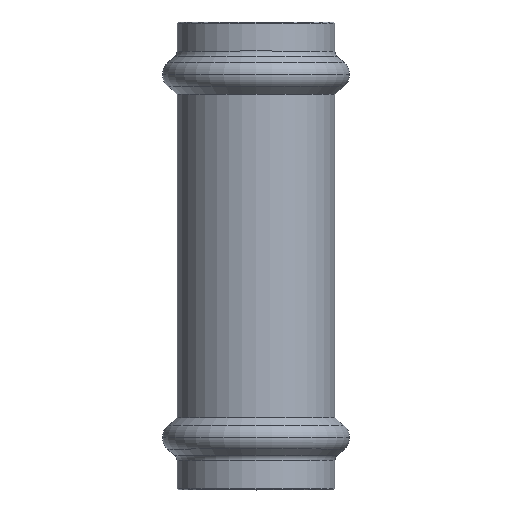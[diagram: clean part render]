
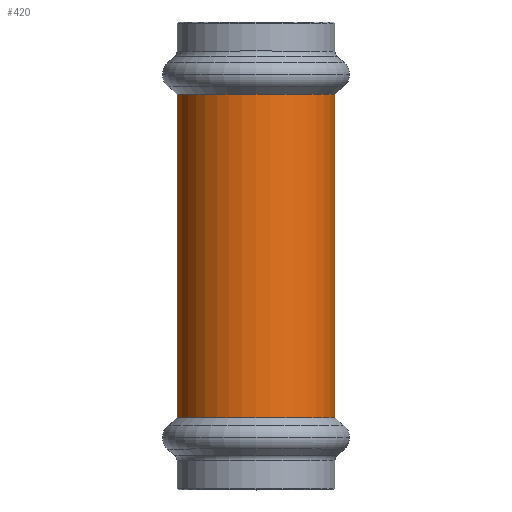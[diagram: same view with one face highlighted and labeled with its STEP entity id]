
A CAD part, top view. The second image highlights one B-rep face of the part: STEP entity #420.
In plain terms, the highlighted cylindrical face has radius 15.65 mm (diameter 31.3 mm), a partial arc.
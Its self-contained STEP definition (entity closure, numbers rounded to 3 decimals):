
#10=CARTESIAN_POINT('',(31.006,16.142,0.));
#20=DIRECTION('',(0.,1.,0.));
#30=DIRECTION('',(1.,0.,0.));
#40=AXIS2_PLACEMENT_3D('',#10,#20,#30);
#50=CYLINDRICAL_SURFACE('',#40,15.65);
#60=CARTESIAN_POINT('',(15.356,16.142,0.
));
#70=DIRECTION('',(0.,1.,0.));
#80=VECTOR('',#70,1.);
#90=LINE('',#60,#80);
#100=CARTESIAN_POINT('',(15.356,-14.021,
0.));
#110=VERTEX_POINT('',#100);
#120=CARTESIAN_POINT('',(15.356,50.305,
0.));
#130=VERTEX_POINT('',#120);
#140=EDGE_CURVE('',#110,#130,#90,.T.);
#150=ORIENTED_EDGE('',*,*,#140,.F.);
#160=CARTESIAN_POINT('',(31.006,50.305,0.));
#170=DIRECTION('',(0.,1.,0.));
#180=DIRECTION('',(1.,0.,0.));
#190=AXIS2_PLACEMENT_3D('',#160,#170,#180);
#200=CIRCLE('',#190,15.65);
#210=CARTESIAN_POINT('',(46.656,50.305,0.));
#220=VERTEX_POINT('',#210);
#230=EDGE_CURVE('',#130,#220,#200,.T.);
#240=ORIENTED_EDGE('',*,*,#230,.F.);
#250=CARTESIAN_POINT('',(46.656,16.142,0.));
#260=DIRECTION('',(0.,1.,0.));
#270=VECTOR('',#260,1.);
#280=LINE('',#250,#270);
#290=CARTESIAN_POINT('',(46.656,-14.021,0.));
#300=VERTEX_POINT('',#290);
#310=EDGE_CURVE('',#300,#220,#280,.T.);
#320=ORIENTED_EDGE('',*,*,#310,.T.);
#330=CARTESIAN_POINT('',(31.006,-14.021,0.));
#340=DIRECTION('',(0.,-1.,0.));
#350=DIRECTION('',(-1.,0.,0.));
#360=AXIS2_PLACEMENT_3D('',#330,#340,#350);
#370=CIRCLE('',#360,15.65);
#380=EDGE_CURVE('',#300,#110,#370,.T.);
#390=ORIENTED_EDGE('',*,*,#380,.F.);
#400=EDGE_LOOP('',(#390,#320,#240,#150));
#410=FACE_OUTER_BOUND('',#400,.T.);
#420=ADVANCED_FACE('',(#410),#50,.T.);
